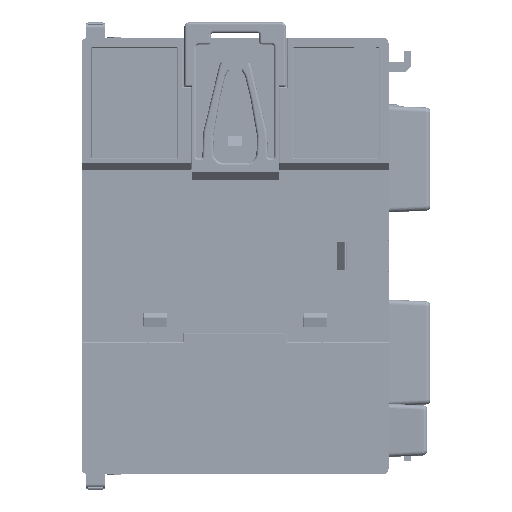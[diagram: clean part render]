
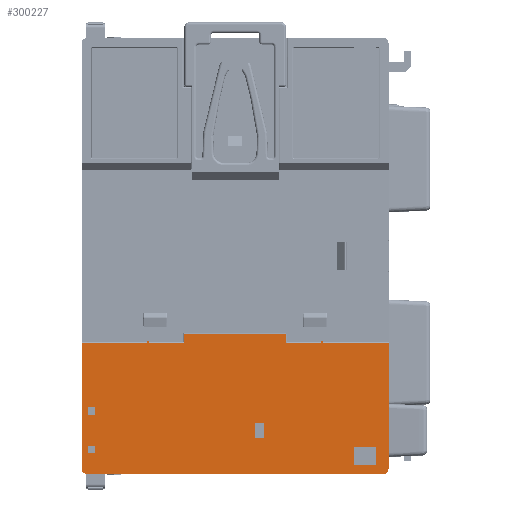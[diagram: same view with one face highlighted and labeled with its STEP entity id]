
A CAD part, front view. The second image highlights one B-rep face of the part: STEP entity #300227.
In plain terms, the highlighted planar face has unit normal (0, -1, 0).
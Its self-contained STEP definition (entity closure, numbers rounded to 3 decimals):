
#57193=DIRECTION('',(0.,0.,-1.));
#57194=VECTOR('',#57193,26.05);
#57195=CARTESIAN_POINT('',(31.65,0.,-17.95));
#57196=LINE('',#57195,#57194);
#57200=DIRECTION('',(-1.,0.,0.));
#57201=VECTOR('',#57200,61.3);
#57202=CARTESIAN_POINT('',(30.65,0.,-45.));
#57203=LINE('',#57202,#57201);
#57207=DIRECTION('',(0.,0.,1.));
#57208=VECTOR('',#57207,26.05);
#57209=CARTESIAN_POINT('',(-31.65,0.,-44.));
#57210=LINE('',#57209,#57208);
#57256=DIRECTION('',(0.,0.,1.));
#57257=VECTOR('',#57256,1.5);
#57258=CARTESIAN_POINT('',(-30.35,0.,-40.75));
#57259=LINE('',#57258,#57257);
#57263=DIRECTION('',(-1.,0.,0.));
#57264=VECTOR('',#57263,1.5);
#57265=CARTESIAN_POINT('',(-28.85,0.,-40.75));
#57266=LINE('',#57265,#57264);
#57270=DIRECTION('',(0.,0.,-1.));
#57271=VECTOR('',#57270,1.5);
#57272=CARTESIAN_POINT('',(-28.85,0.,-39.25));
#57273=LINE('',#57272,#57271);
#57277=DIRECTION('',(1.,0.,0.));
#57278=VECTOR('',#57277,1.5);
#57279=CARTESIAN_POINT('',(-30.35,0.,-39.25));
#57280=LINE('',#57279,#57278);
#57284=DIRECTION('',(0.,0.,1.));
#57285=VECTOR('',#57284,1.5);
#57286=CARTESIAN_POINT('',(-30.35,0.,-32.75));
#57287=LINE('',#57286,#57285);
#57291=DIRECTION('',(-1.,0.,0.));
#57292=VECTOR('',#57291,1.5);
#57293=CARTESIAN_POINT('',(-28.85,0.,-32.75));
#57294=LINE('',#57293,#57292);
#57298=DIRECTION('',(0.,0.,-1.));
#57299=VECTOR('',#57298,1.5);
#57300=CARTESIAN_POINT('',(-28.85,0.,-31.25));
#57301=LINE('',#57300,#57299);
#57305=DIRECTION('',(1.,0.,0.));
#57306=VECTOR('',#57305,1.5);
#57307=CARTESIAN_POINT('',(-30.35,0.,-31.25));
#57308=LINE('',#57307,#57306);
#57312=DIRECTION('',(0.,0.,1.));
#57313=VECTOR('',#57312,3.7);
#57314=CARTESIAN_POINT('',(29.1,0.,-43.2));
#57315=LINE('',#57314,#57313);
#57319=DIRECTION('',(-1.,0.,0.));
#57320=VECTOR('',#57319,4.6);
#57321=CARTESIAN_POINT('',(29.1,0.,-39.5));
#57322=LINE('',#57321,#57320);
#57326=DIRECTION('',(0.,0.,-1.));
#57327=VECTOR('',#57326,3.7);
#57328=CARTESIAN_POINT('',(24.5,0.,-39.5));
#57329=LINE('',#57328,#57327);
#57333=DIRECTION('',(1.,0.,0.));
#57334=VECTOR('',#57333,4.6);
#57335=CARTESIAN_POINT('',(24.5,0.,-43.2));
#57336=LINE('',#57335,#57334);
#57347=DIRECTION('',(0.,0.,1.));
#57348=VECTOR('',#57347,3.);
#57349=CARTESIAN_POINT('',(4.,0.,-37.5));
#57350=LINE('',#57349,#57348);
#57354=DIRECTION('',(-1.,0.,0.));
#57355=VECTOR('',#57354,2.);
#57356=CARTESIAN_POINT('',(6.,0.,-37.5));
#57357=LINE('',#57356,#57355);
#57361=DIRECTION('',(0.,0.,-1.));
#57362=VECTOR('',#57361,3.);
#57363=CARTESIAN_POINT('',(6.,0.,-34.5));
#57364=LINE('',#57363,#57362);
#57368=DIRECTION('',(1.,0.,0.));
#57369=VECTOR('',#57368,2.);
#57370=CARTESIAN_POINT('',(4.,0.,-34.5));
#57371=LINE('',#57370,#57369);
#57375=DIRECTION('',(-1.,0.,0.));
#57376=VECTOR('',#57375,7.3);
#57377=CARTESIAN_POINT('',(17.85,0.,-17.95));
#57378=LINE('',#57377,#57376);
#57400=DIRECTION('',(0.,0.,1.));
#57401=VECTOR('',#57400,1.95);
#57402=CARTESIAN_POINT('',(10.55,0.,-17.95));
#57403=LINE('',#57402,#57401);
#57432=DIRECTION('',(-1.,0.,0.));
#57433=VECTOR('',#57432,21.1);
#57434=CARTESIAN_POINT('',(10.55,0.,-16.));
#57435=LINE('',#57434,#57433);
#57462=DIRECTION('',(0.,0.,-1.));
#57463=VECTOR('',#57462,1.95);
#57464=CARTESIAN_POINT('',(-10.55,0.,-16.));
#57465=LINE('',#57464,#57463);
#57501=DIRECTION('',(-1.,0.,0.));
#57502=VECTOR('',#57501,7.3);
#57503=CARTESIAN_POINT('',(-10.55,0.,-17.95));
#57504=LINE('',#57503,#57502);
#57600=DIRECTION('',(-1.,0.,0.));
#57601=VECTOR('',#57600,13.5);
#57602=CARTESIAN_POINT('',(-18.15,0.,-17.95));
#57603=LINE('',#57602,#57601);
#57615=CARTESIAN_POINT('',(-18.,0.,-17.75));
#57616=DIRECTION('',(0.,-1.,0.));
#57617=DIRECTION('',(0.6,0.,-0.8));
#57618=AXIS2_PLACEMENT_3D('',#57615,#57616,#57617);
#63025=CARTESIAN_POINT('',(30.65,0.,-44.));
#63026=DIRECTION('',(0.,-1.,0.));
#63027=DIRECTION('',(0.,0.,-1.));
#63028=AXIS2_PLACEMENT_3D('',#63025,#63026,#63027);
#63343=DIRECTION('',(-1.,0.,0.));
#63344=VECTOR('',#63343,13.5);
#63345=CARTESIAN_POINT('',(31.65,0.,-17.95));
#63346=LINE('',#63345,#63344);
#63361=CARTESIAN_POINT('',(18.,0.,-17.75));
#63362=DIRECTION('',(0.,-1.,0.));
#63363=DIRECTION('',(0.6,0.,-0.8));
#63364=AXIS2_PLACEMENT_3D('',#63361,#63362,#63363);
#65150=CARTESIAN_POINT('',(-30.65,0.,-44.));
#65151=DIRECTION('',(0.,-1.,0.));
#65152=DIRECTION('',(-1.,0.,0.));
#65153=AXIS2_PLACEMENT_3D('',#65150,#65151,#65152);
#222034=CARTESIAN_POINT('',(30.65,0.,-45.));
#222035=CARTESIAN_POINT('',(31.65,0.,-44.));
#222036=VERTEX_POINT('',#222034);
#222037=VERTEX_POINT('',#222035);
#222038=CARTESIAN_POINT('',(-31.65,0.,-44.));
#222039=CARTESIAN_POINT('',(-30.65,0.,-45.));
#222040=VERTEX_POINT('',#222038);
#222041=VERTEX_POINT('',#222039);
#222166=CARTESIAN_POINT('',(17.85,0.,-17.95));
#222167=CARTESIAN_POINT('',(10.55,0.,-17.95));
#222168=VERTEX_POINT('',#222166);
#222169=VERTEX_POINT('',#222167);
#222174=CARTESIAN_POINT('',(10.55,0.,-16.));
#222175=VERTEX_POINT('',#222174);
#222188=CARTESIAN_POINT('',(-10.55,0.,-16.));
#222189=VERTEX_POINT('',#222188);
#222190=CARTESIAN_POINT('',(-10.55,0.,-17.95));
#222191=VERTEX_POINT('',#222190);
#222196=CARTESIAN_POINT('',(-17.85,0.,-17.95));
#222197=VERTEX_POINT('',#222196);
#222218=CARTESIAN_POINT('',(-18.15,0.,-17.95));
#222219=CARTESIAN_POINT('',(-31.65,0.,-17.95));
#222220=VERTEX_POINT('',#222218);
#222221=VERTEX_POINT('',#222219);
#222226=CARTESIAN_POINT('',(31.65,0.,-17.95));
#222227=VERTEX_POINT('',#222226);
#222228=CARTESIAN_POINT('',(18.15,0.,-17.95));
#222229=VERTEX_POINT('',#222228);
#222471=CARTESIAN_POINT('',(-30.35,0.,-40.75));
#222472=CARTESIAN_POINT('',(-30.35,0.,-39.25));
#222473=VERTEX_POINT('',#222471);
#222474=VERTEX_POINT('',#222472);
#222475=CARTESIAN_POINT('',(-28.85,0.,-39.25));
#222476=VERTEX_POINT('',#222475);
#222477=CARTESIAN_POINT('',(-28.85,0.,-40.75));
#222478=VERTEX_POINT('',#222477);
#222479=CARTESIAN_POINT('',(-30.35,0.,-32.75));
#222480=CARTESIAN_POINT('',(-30.35,0.,-31.25));
#222481=VERTEX_POINT('',#222479);
#222482=VERTEX_POINT('',#222480);
#222483=CARTESIAN_POINT('',(-28.85,0.,-31.25));
#222484=VERTEX_POINT('',#222483);
#222485=CARTESIAN_POINT('',(-28.85,0.,-32.75));
#222486=VERTEX_POINT('',#222485);
#222499=CARTESIAN_POINT('',(24.5,0.,-43.2));
#222500=CARTESIAN_POINT('',(29.1,0.,-43.2));
#222501=VERTEX_POINT('',#222499);
#222502=VERTEX_POINT('',#222500);
#222505=CARTESIAN_POINT('',(4.,0.,-37.5));
#222506=CARTESIAN_POINT('',(4.,0.,-34.5));
#222507=VERTEX_POINT('',#222505);
#222508=VERTEX_POINT('',#222506);
#222509=CARTESIAN_POINT('',(6.,0.,-34.5));
#222510=VERTEX_POINT('',#222509);
#222511=CARTESIAN_POINT('',(6.,0.,-37.5));
#222512=VERTEX_POINT('',#222511);
#223725=CARTESIAN_POINT('',(29.1,0.,-39.5));
#223726=VERTEX_POINT('',#223725);
#223727=CARTESIAN_POINT('',(24.5,0.,-39.5));
#223728=VERTEX_POINT('',#223727);
#300155=CARTESIAN_POINT('',(0.,0.,0.));
#300156=DIRECTION('',(0.,1.,0.));
#300157=DIRECTION('',(1.,0.,0.));
#300158=AXIS2_PLACEMENT_3D('',#300155,#300156,#300157);
#300159=PLANE('',#300158);
#300161=ORIENTED_EDGE('',*,*,#300160,.F.);
#300163=ORIENTED_EDGE('',*,*,#300162,.F.);
#300165=ORIENTED_EDGE('',*,*,#300164,.F.);
#300167=ORIENTED_EDGE('',*,*,#300166,.T.);
#300169=ORIENTED_EDGE('',*,*,#300168,.F.);
#300170=ORIENTED_EDGE('',*,*,#288389,.T.);
#300172=ORIENTED_EDGE('',*,*,#300171,.F.);
#300173=ORIENTED_EDGE('',*,*,#299376,.T.);
#300175=ORIENTED_EDGE('',*,*,#300174,.F.);
#300177=ORIENTED_EDGE('',*,*,#300176,.F.);
#300179=ORIENTED_EDGE('',*,*,#300178,.F.);
#300181=ORIENTED_EDGE('',*,*,#300180,.F.);
#300183=ORIENTED_EDGE('',*,*,#300182,.F.);
#300185=ORIENTED_EDGE('',*,*,#300184,.F.);
#300186=EDGE_LOOP('',(#300161,#300163,#300165,#300167,#300169,#300170,#300172,
#300173,#300175,#300177,#300179,#300181,#300183,#300185));
#300187=FACE_OUTER_BOUND('',#300186,.F.);
#300188=ORIENTED_EDGE('',*,*,#300144,.F.);
#300190=ORIENTED_EDGE('',*,*,#300189,.F.);
#300192=ORIENTED_EDGE('',*,*,#300191,.F.);
#300194=ORIENTED_EDGE('',*,*,#300193,.F.);
#300195=EDGE_LOOP('',(#300188,#300190,#300192,#300194));
#300196=FACE_BOUND('',#300195,.F.);
#300198=ORIENTED_EDGE('',*,*,#300197,.F.);
#300200=ORIENTED_EDGE('',*,*,#300199,.F.);
#300202=ORIENTED_EDGE('',*,*,#300201,.F.);
#300204=ORIENTED_EDGE('',*,*,#300203,.F.);
#300205=EDGE_LOOP('',(#300198,#300200,#300202,#300204));
#300206=FACE_BOUND('',#300205,.F.);
#300208=ORIENTED_EDGE('',*,*,#300207,.T.);
#300210=ORIENTED_EDGE('',*,*,#300209,.T.);
#300212=ORIENTED_EDGE('',*,*,#300211,.T.);
#300214=ORIENTED_EDGE('',*,*,#300213,.T.);
#300215=EDGE_LOOP('',(#300208,#300210,#300212,#300214));
#300216=FACE_BOUND('',#300215,.F.);
#300218=ORIENTED_EDGE('',*,*,#300217,.F.);
#300220=ORIENTED_EDGE('',*,*,#300219,.F.);
#300222=ORIENTED_EDGE('',*,*,#300221,.F.);
#300224=ORIENTED_EDGE('',*,*,#300223,.F.);
#300225=EDGE_LOOP('',(#300218,#300220,#300222,#300224));
#300226=FACE_BOUND('',#300225,.F.);
#300227=ADVANCED_FACE('',(#300187,#300196,#300206,#300216,#300226),#300159,.F.);
#57619=CIRCLE('',#57618,0.25);
#63029=CIRCLE('',#63028,1.);
#63365=CIRCLE('',#63364,0.25);
#65154=CIRCLE('',#65153,1.);
#288389=EDGE_CURVE('',#222036,#222041,#57203,.T.);
#299376=EDGE_CURVE('',#222040,#222221,#57210,.T.);
#300144=EDGE_CURVE('',#222473,#222474,#57259,.T.);
#300160=EDGE_CURVE('',#222168,#222169,#57378,.T.);
#300162=EDGE_CURVE('',#222229,#222168,#63365,.T.);
#300164=EDGE_CURVE('',#222227,#222229,#63346,.T.);
#300166=EDGE_CURVE('',#222227,#222037,#57196,.T.);
#300168=EDGE_CURVE('',#222036,#222037,#63029,.T.);
#300171=EDGE_CURVE('',#222040,#222041,#65154,.T.);
#300174=EDGE_CURVE('',#222220,#222221,#57603,.T.);
#300176=EDGE_CURVE('',#222197,#222220,#57619,.T.);
#300178=EDGE_CURVE('',#222191,#222197,#57504,.T.);
#300180=EDGE_CURVE('',#222189,#222191,#57465,.T.);
#300182=EDGE_CURVE('',#222175,#222189,#57435,.T.);
#300184=EDGE_CURVE('',#222169,#222175,#57403,.T.);
#300189=EDGE_CURVE('',#222478,#222473,#57266,.T.);
#300191=EDGE_CURVE('',#222476,#222478,#57273,.T.);
#300193=EDGE_CURVE('',#222474,#222476,#57280,.T.);
#300197=EDGE_CURVE('',#222481,#222482,#57287,.T.);
#300199=EDGE_CURVE('',#222486,#222481,#57294,.T.);
#300201=EDGE_CURVE('',#222484,#222486,#57301,.T.);
#300203=EDGE_CURVE('',#222482,#222484,#57308,.T.);
#300207=EDGE_CURVE('',#222502,#223726,#57315,.T.);
#300209=EDGE_CURVE('',#223726,#223728,#57322,.T.);
#300211=EDGE_CURVE('',#223728,#222501,#57329,.T.);
#300213=EDGE_CURVE('',#222501,#222502,#57336,.T.);
#300217=EDGE_CURVE('',#222507,#222508,#57350,.T.);
#300219=EDGE_CURVE('',#222512,#222507,#57357,.T.);
#300221=EDGE_CURVE('',#222510,#222512,#57364,.T.);
#300223=EDGE_CURVE('',#222508,#222510,#57371,.T.);
